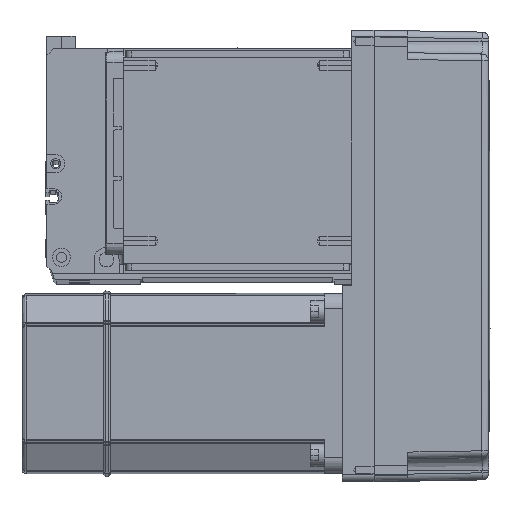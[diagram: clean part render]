
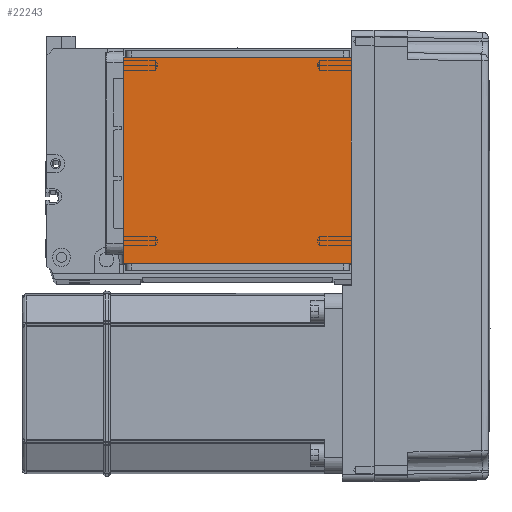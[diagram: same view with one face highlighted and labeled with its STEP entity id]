
A CAD part, top view. The second image highlights one B-rep face of the part: STEP entity #22243.
In plain terms, the highlighted planar face has unit normal (0, 0, 1).
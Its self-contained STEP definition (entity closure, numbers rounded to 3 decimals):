
#2 = DIRECTION ( 'NONE',  ( 1., 0., 0. ) ) ;
#2521 = LINE ( 'NONE', #17929, #48683 ) ;
#6770 = LINE ( 'NONE', #49056, #21690 ) ;
#11038 = VERTEX_POINT ( 'NONE', #25130 ) ;
#13930 = ORIENTED_EDGE ( 'NONE', *, *, #52823, .F. ) ;
#15469 = AXIS2_PLACEMENT_3D ( 'NONE', #26811, #36468, #2 ) ;
#16676 = DIRECTION ( 'NONE',  ( 0., 1., 0. ) ) ;
#17263 = CARTESIAN_POINT ( 'NONE',  ( -50.5, 20., 115. ) ) ;
#17929 = CARTESIAN_POINT ( 'NONE',  ( -70.004, 20., 115. ) ) ;
#21604 = EDGE_CURVE ( 'NONE', #11038, #40625, #6770, .T. ) ;
#21690 = VECTOR ( 'NONE', #53826, 1000. ) ;
#22137 = DIRECTION ( 'NONE',  ( -1., 0., 0. ) ) ;
#22243 = ADVANCED_FACE ( 'NONE', ( #44400 ), #40618, .T. ) ;
#22517 = ORIENTED_EDGE ( 'NONE', *, *, #39036, .F. ) ;
#22676 = VERTEX_POINT ( 'NONE', #30288 ) ;
#25130 = CARTESIAN_POINT ( 'NONE',  ( -50.5, 111.5, 115. ) ) ;
#26811 = CARTESIAN_POINT ( 'NONE',  ( 0., 0., 115. ) ) ;
#27618 = VECTOR ( 'NONE', #16676, 1000. ) ;
#30004 = CARTESIAN_POINT ( 'NONE',  ( 50.5, 122., 115. ) ) ;
#30288 = CARTESIAN_POINT ( 'NONE',  ( 50.5, 20., 115. ) ) ;
#32801 = LINE ( 'NONE', #39731, #55534 ) ;
#33162 = CARTESIAN_POINT ( 'NONE',  ( 50.5, 111.5, 115. ) ) ;
#33241 = LINE ( 'NONE', #30004, #27618 ) ;
#36468 = DIRECTION ( 'NONE',  ( 0., 0., 1. ) ) ;
#39036 = EDGE_CURVE ( 'NONE', #22676, #40625, #2521, .T. ) ;
#39731 = CARTESIAN_POINT ( 'NONE',  ( -70.004, 111.5, 115. ) ) ;
#39915 = DIRECTION ( 'NONE',  ( 1., 0., 0. ) ) ;
#40618 = PLANE ( 'NONE',  #15469 ) ;
#40625 = VERTEX_POINT ( 'NONE', #17263 ) ;
#44400 = FACE_OUTER_BOUND ( 'NONE', #57235, .T. ) ;
#45264 = ORIENTED_EDGE ( 'NONE', *, *, #21604, .T. ) ;
#48683 = VECTOR ( 'NONE', #22137, 1000. ) ;
#49056 = CARTESIAN_POINT ( 'NONE',  ( -50.5, 122., 115. ) ) ;
#49914 = EDGE_CURVE ( 'NONE', #22676, #56593, #33241, .T. ) ;
#52823 = EDGE_CURVE ( 'NONE', #11038, #56593, #32801, .T. ) ;
#53826 = DIRECTION ( 'NONE',  ( 0., -1., 0. ) ) ;
#55534 = VECTOR ( 'NONE', #39915, 1000. ) ;
#55645 = ORIENTED_EDGE ( 'NONE', *, *, #49914, .T. ) ;
#56593 = VERTEX_POINT ( 'NONE', #33162 ) ;
#57235 = EDGE_LOOP ( 'NONE', ( #13930, #45264, #22517, #55645 ) ) ;
